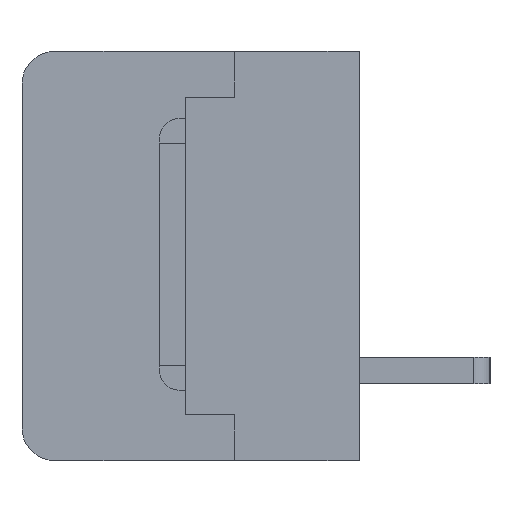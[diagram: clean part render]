
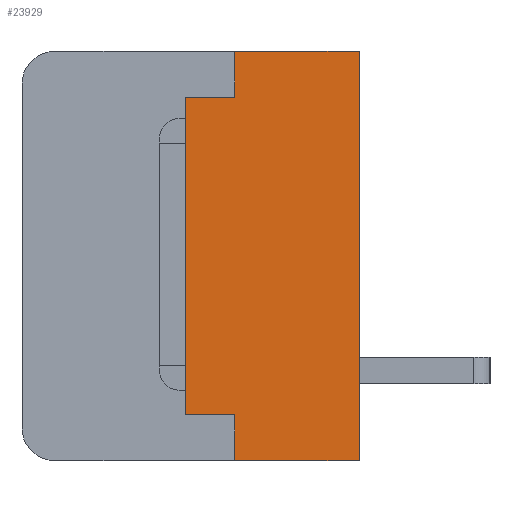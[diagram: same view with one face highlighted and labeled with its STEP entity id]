
A CAD part, left-side view. The second image highlights one B-rep face of the part: STEP entity #23929.
In plain terms, the highlighted planar face has unit normal (-1, 0, 0).
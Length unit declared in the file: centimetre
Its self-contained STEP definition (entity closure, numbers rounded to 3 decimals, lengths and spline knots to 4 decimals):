
#1455=PLANE('',#39344);
#2175=VECTOR('',#25232,1.);
#2274=VECTOR('',#25375,1.);
#2308=VECTOR('',#25412,1.);
#2341=VECTOR('',#25446,1.);
#3712=VECTOR('',#28596,1.);
#3713=VECTOR('',#28597,1.);
#3714=VECTOR('',#28598,1.);
#3715=VECTOR('',#28599,1.);
#4691=LINE('',#31261,#2175);
#4790=LINE('',#31478,#2274);
#4824=LINE('',#31548,#2308);
#4857=LINE('',#31613,#2341);
#6228=LINE('',#36373,#3712);
#6229=LINE('',#36375,#3713);
#6230=LINE('',#36376,#3714);
#6231=LINE('',#36378,#3715);
#7143=VERTEX_POINT('',#31260);
#7144=VERTEX_POINT('',#31262);
#7193=VERTEX_POINT('',#31402);
#7230=VERTEX_POINT('',#31477);
#7264=VERTEX_POINT('',#31547);
#7296=VERTEX_POINT('',#31614);
#8618=VERTEX_POINT('',#36374);
#8619=VERTEX_POINT('',#36377);
#10203=EDGE_CURVE('',#7143,#7144,#4691,.T.);
#10311=EDGE_CURVE('',#7230,#7193,#4790,.T.);
#10346=EDGE_CURVE('',#7193,#7264,#4824,.T.);
#10379=EDGE_CURVE('',#7264,#7296,#4857,.T.);
#12435=EDGE_CURVE('',#8618,#7230,#6228,.T.);
#12436=EDGE_CURVE('',#7144,#8618,#6229,.T.);
#12437=EDGE_CURVE('',#8619,#7143,#6230,.T.);
#12438=EDGE_CURVE('',#7296,#8619,#6231,.T.);
#18950=ORIENTED_EDGE('',*,*,#12435,.F.);
#18951=ORIENTED_EDGE('',*,*,#12436,.F.);
#18952=ORIENTED_EDGE('',*,*,#10203,.F.);
#18953=ORIENTED_EDGE('',*,*,#12437,.F.);
#18954=ORIENTED_EDGE('',*,*,#12438,.F.);
#18955=ORIENTED_EDGE('',*,*,#10379,.F.);
#18956=ORIENTED_EDGE('',*,*,#10346,.F.);
#18957=ORIENTED_EDGE('',*,*,#10311,.F.);
#21174=EDGE_LOOP('',(#18950,#18951,#18952,#18953,#18954,#18955,#18956,#18957));
#22602=FACE_BOUND('',#21174,.T.);
#23929=ADVANCED_FACE('',(#22602),#1455,.F.);
#25232=DIRECTION('',(0.,0.,1.));
#25375=DIRECTION('',(0.,-1.,0.));
#25412=DIRECTION('',(0.,0.,-1.));
#25446=DIRECTION('',(0.,1.,0.));
#28595=DIRECTION('',(1.,0.,0.));
#28596=DIRECTION('',(0.,0.,1.));
#28597=DIRECTION('',(0.,-1.,0.));
#28598=DIRECTION('',(0.,1.,0.));
#28599=DIRECTION('',(0.,0.,1.));
#31260=CARTESIAN_POINT('',(-1.382,0.53,-0.485));
#31261=CARTESIAN_POINT('',(-1.382,0.53,-0.485));
#31262=CARTESIAN_POINT('',(-1.382,0.53,0.485));
#31402=CARTESIAN_POINT('',(-1.382,0.,0.625));
#31477=CARTESIAN_POINT('',(-1.382,0.38,0.625));
#31478=CARTESIAN_POINT('',(-1.382,0.38,0.625));
#31547=CARTESIAN_POINT('',(-1.382,0.,-0.625));
#31548=CARTESIAN_POINT('',(-1.382,0.,0.625));
#31613=CARTESIAN_POINT('',(-1.382,0.,-0.625));
#31614=CARTESIAN_POINT('',(-1.382,0.38,-0.625));
#36372=CARTESIAN_POINT('',(-1.382,0.2532,0.));
#36373=CARTESIAN_POINT('',(-1.382,0.38,0.485));
#36374=CARTESIAN_POINT('',(-1.382,0.38,0.485));
#36375=CARTESIAN_POINT('',(-1.382,0.53,0.485));
#36376=CARTESIAN_POINT('',(-1.382,0.38,-0.485));
#36377=CARTESIAN_POINT('',(-1.382,0.38,-0.485));
#36378=CARTESIAN_POINT('',(-1.382,0.38,-0.625));
#39344=AXIS2_PLACEMENT_3D('',#36372,#28595,$);
